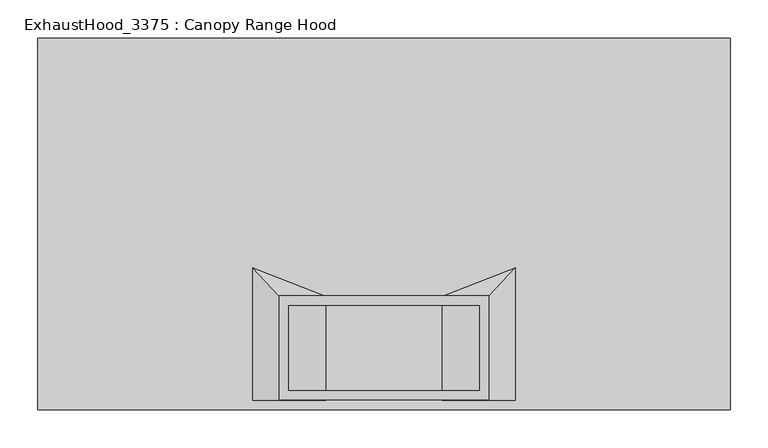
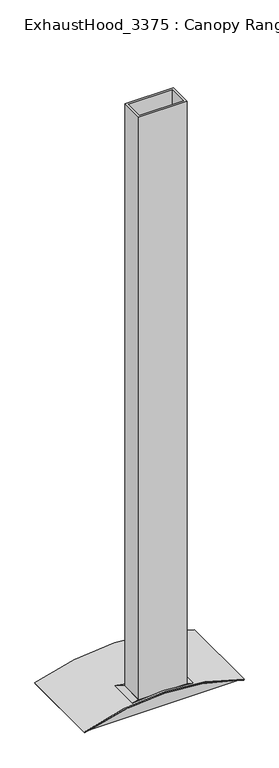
"""IFC4 building model written with IfcOpenShell, lengths in millimetres: proxy geometry, ExhaustHood_3375 : Canopy Range Hood."""

from ifc_helpers import new_model, si_unit, point, frame, frame_2d, origin, place, context, project, spatial, polyline, circle_curve, trimmed, segment, composite_curve, outline, extrude, faceted_brep, source, transform, mapped, element, save


def exhausthood_3375_canopy_range_hood_4b5b32bf(model_context):
    return source(origin(), model_context, "Body", "SolidModel", [
        extrude(outline(composite_curve([segment(trimmed(circle_curve(frame_2d((1576.3457669, 83.773799)), 6.35), [point((1576.3457669, 90.123799))], [point((1576.3457669, 77.423799))], False, "CARTESIAN"), True, "CONTINUOUS"), segment(trimmed(circle_curve(frame_2d((1576.3457669, 83.773799)), 6.35), [point((1576.3457669, 77.423799))], [point((1576.3457669, 90.123799))], False, "CARTESIAN"), True, "CONTINUOUS")], self_intersect=False)), frame((0.0, 463.55, 0.0), z_axis=(0.0, 1.0, 0.0), x_axis=(0.0, 0.0, 1.0)), (0.0, 0.0, 1.0), 12.2251914),
        extrude(outline(composite_curve([segment(trimmed(circle_curve(frame_2d((1576.3457669, 56.1754393)), 6.35), [point((1576.3457669, 62.5254393))], [point((1576.3457669, 49.8254393))], False, "CARTESIAN"), True, "CONTINUOUS"), segment(trimmed(circle_curve(frame_2d((1576.3457669, 56.1754393)), 6.35), [point((1576.3457669, 49.8254393))], [point((1576.3457669, 62.5254393))], False, "CARTESIAN"), True, "CONTINUOUS")], self_intersect=False)), frame((0.0, 463.55, 0.0), z_axis=(0.0, 1.0, 0.0), x_axis=(0.0, 0.0, 1.0)), (0.0, 0.0, 1.0), 12.2251914),
        extrude(outline(composite_curve([segment(trimmed(circle_curve(frame_2d((1576.3457669, -83.773799)), 6.35), [point((1576.3457669, -90.123799))], [point((1576.3457669, -77.423799))], False, "CARTESIAN"), True, "CONTINUOUS"), segment(trimmed(circle_curve(frame_2d((1576.3457669, -83.773799)), 6.35), [point((1576.3457669, -77.423799))], [point((1576.3457669, -90.123799))], False, "CARTESIAN"), True, "CONTINUOUS")], self_intersect=False)), frame((0.0, 463.55, 0.0), z_axis=(0.0, 1.0, 0.0), x_axis=(0.0, 0.0, 1.0)), (0.0, 0.0, 1.0), 12.2251914),
        extrude(outline(composite_curve([segment(trimmed(circle_curve(frame_2d((1576.3457669, -56.1754393)), 6.35), [point((1576.3457669, -62.5254393))], [point((1576.3457669, -49.8254393))], False, "CARTESIAN"), True, "CONTINUOUS"), segment(trimmed(circle_curve(frame_2d((1576.3457669, -56.1754393)), 6.35), [point((1576.3457669, -49.8254393))], [point((1576.3457669, -62.5254393))], False, "CARTESIAN"), True, "CONTINUOUS")], self_intersect=False)), frame((0.0, 463.55, 0.0), z_axis=(0.0, 1.0, 0.0), x_axis=(0.0, 0.0, 1.0)), (0.0, 0.0, 1.0), 12.2251914),
        extrude(outline(polyline([(34.925, 463.55), (-34.925, 463.55), (-34.925, 475.7751914), (34.925, 475.7751914), (34.925, 463.55)])), frame((0.0, 0.0, 1566.6582653), z_axis=(0.0, 0.0, 1.0), x_axis=(1.0, 0.0, 0.0)), (0.0, 0.0, 1.0), 19.05),
        extrude(outline(composite_curve([segment(polyline([(1534.1824562, -423.1239609), (1534.1824562, 423.1239609)]), True, "CONTINUOUS"), segment(trimmed(circle_curve(frame_2d((313.1783681, 0.0)), 1292.2402522), [point((1534.1824562, 423.1239609))], [point((1534.1824562, -423.1239609))], False, "CARTESIAN"), True, "CONTINUOUS")], self_intersect=False)), frame((0.0, 0.0, 0.0), z_axis=(0.0, 1.0, 0.0), x_axis=(0.0, 0.0, 1.0)), (0.0, 0.0, 1.0), 463.55),
        extrude(outline(composite_curve([segment(trimmed(circle_curve(frame_2d((314.3097487, 0.0)), 1292.2402522), [point((1524.4036627, -453.3845922))], [point((1524.4036627, 453.3845922))], True, "CARTESIAN"), True, "CONTINUOUS"), segment(polyline([(1524.4036627, 453.3845922), (1530.35, 455.6125)]), True, "CONTINUOUS"), segment(trimmed(circle_curve(frame_2d((314.3097487, 0.0)), 1298.5902522), [point((1530.35, 455.6125))], [point((1530.35, -455.6125))], False, "CARTESIAN"), True, "CONTINUOUS"), segment(polyline([(1530.35, -455.6125), (1524.4036627, -453.3845922)]), True, "CONTINUOUS")], self_intersect=False)), frame((0.0, 0.0, 0.0), z_axis=(0.0, 1.0, 0.0), x_axis=(0.0, 0.0, 1.0)), (0.0, 0.0, 1.0), 488.95),
        extrude(outline(polyline([(-138.1125, 149.225), (138.1125, 149.225), (138.1125, 12.7), (-138.1125, 12.7), (-138.1125, 149.225)]), holes=[polyline([(-125.4125, 25.4), (125.3195138, 25.4), (125.3195138, 136.6383686), (-125.4125, 136.6383686), (-125.4125, 25.4)])]), frame((0.0, 0.0, 1606.55), z_axis=(0.0, 0.0, 1.0), x_axis=(1.0, 0.0, 0.0)), (0.0, 0.0, 1.0), 3505.2),
        faceted_brep([(-138.1125, 12.7, 1606.55), (138.1125, 12.7, 1606.55), (138.1125, 149.225, 1606.55), (-138.1125, 149.225, 1606.55), (-430.2125, 12.7, 1534.1824562), (-430.2125, 463.55, 1534.1824562), (430.2125, 463.55, 1534.1824562), (430.2125, 12.7, 1534.1824562)], [[[0, 1, 2, 3]], [[4, 5, 6, 7]], [[4, 7, 1, 0]], [[7, 6, 2, 1]], [[6, 5, 3, 2]], [[5, 4, 0, 3]]]),
    ])


if __name__ == "__main__":
    model = new_model("IFC4")
    model_context = context("Model", 3, world=origin())
    ifc_project = project(units=[si_unit("LENGTHUNIT", "METRE", prefix="MILLI")], contexts=[model_context])
    site = spatial("IfcSite", under=ifc_project)
    building = spatial("IfcBuilding", under=site)
    placement = place(None, origin())
    exhausthood_3375_canopy_range_hood_shape = exhausthood_3375_canopy_range_hood_4b5b32bf(model_context)
    element("IfcBuildingElementProxy", 1, Name="ExhaustHood_3375 : Canopy Range Hood", ObjectType="ExhaustHood_3375 : Canopy Range Hood", at=placement, inside=building, context=model_context, shape_type="MappedRepresentation", body=[
        mapped(exhausthood_3375_canopy_range_hood_shape, transform((0.0, 0.0, 0.0), x_axis=(1.0, 0.0, 0.0), y_axis=(0.0, 1.0, 0.0), z_axis=(0.0, 0.0, 1.0))),
    ])
    save(model, "model.ifc")
